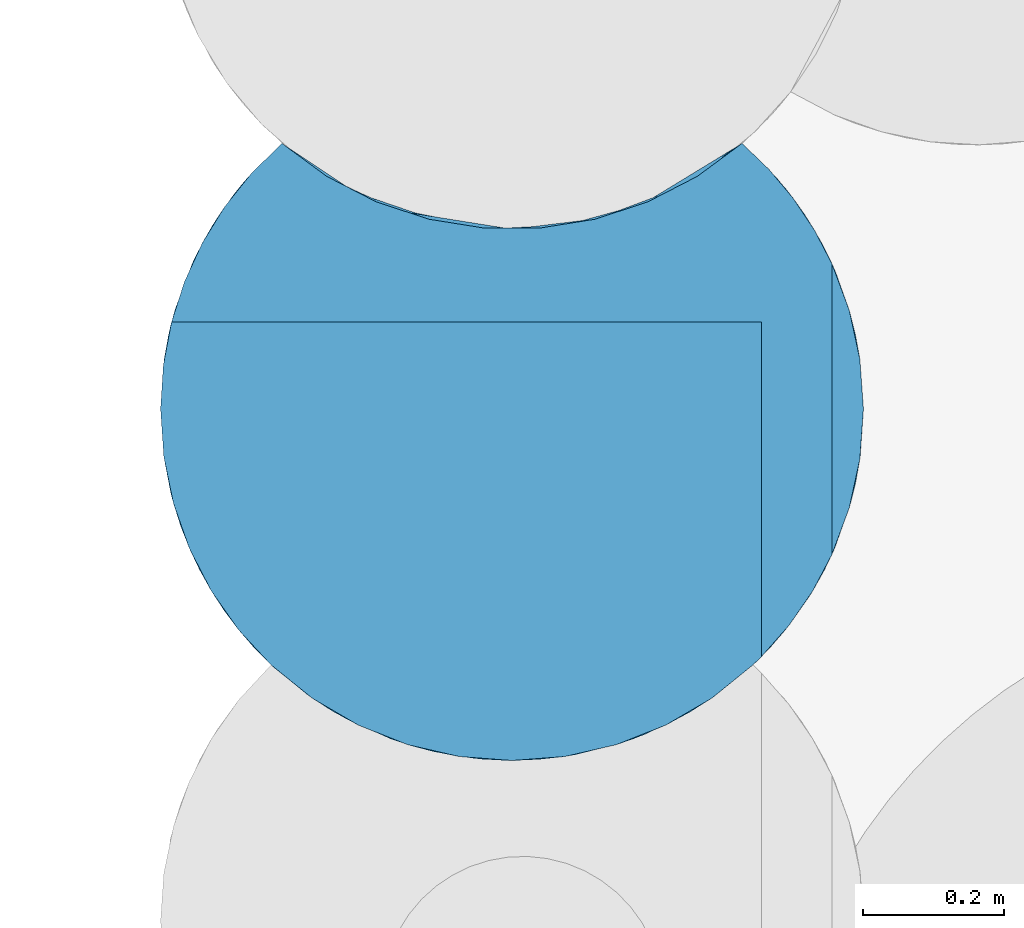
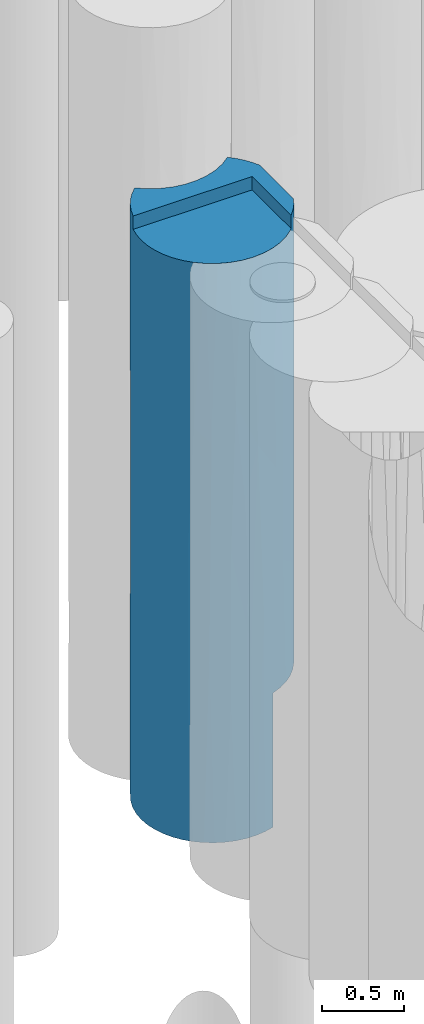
# One storey, part 25 of 104: 1 pile.
"""IFC2X3 building model written with IfcOpenShell, lengths in millimetres."""

from ifc_helpers import new_model, entity, si_unit, converted_unit, derived_unit, direction, frame, origin, place, context, subcontext, project, spatial, faceted_brep, source, transform, mapped, material, element, save


model = new_model("IFC2X3")

# Units and contexts
model_context = context("Model", 3, precision=0.01, world=origin(), true_north=direction((6.12303176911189e-17, 1.0)))
body_context = subcontext(model_context, "Body", "Model", "MODEL_VIEW")
ifc_project = project(units=[si_unit("LENGTHUNIT", "METRE", prefix="MILLI"), si_unit("AREAUNIT", "SQUARE_METRE", prefix="MILLI"), si_unit("VOLUMEUNIT", "CUBIC_METRE"), converted_unit("PLANEANGLEUNIT", "DEGREE", entity("IfcRatioMeasure", 0.0174532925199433), si_unit("PLANEANGLEUNIT", "RADIAN"), dimensions=[0, 0, 0, 0, 0, 0, 0]), si_unit("MASSUNIT", "GRAM", prefix="KILO"), derived_unit("MASSDENSITYUNIT", [(si_unit("MASSUNIT", "GRAM", prefix="KILO"), 1), (si_unit("LENGTHUNIT", "METRE"), -3)]), derived_unit("MOMENTOFINERTIAUNIT", [(si_unit("LENGTHUNIT", "METRE"), 4)]), si_unit("TIMEUNIT", "SECOND"), si_unit("FREQUENCYUNIT", "HERTZ"), si_unit("THERMODYNAMICTEMPERATUREUNIT", "DEGREE_CELSIUS"), derived_unit("THERMALTRANSMITTANCEUNIT", [(si_unit("MASSUNIT", "GRAM", prefix="KILO"), 1), (si_unit("THERMODYNAMICTEMPERATUREUNIT", "KELVIN"), -1), (si_unit("TIMEUNIT", "SECOND"), -3)]), derived_unit("VOLUMETRICFLOWRATEUNIT", [(si_unit("LENGTHUNIT", "METRE"), 3), (si_unit("TIMEUNIT", "SECOND"), -1)]), si_unit("ELECTRICCURRENTUNIT", "AMPERE"), si_unit("ELECTRICVOLTAGEUNIT", "VOLT"), si_unit("POWERUNIT", "WATT"), si_unit("FORCEUNIT", "NEWTON", prefix="KILO"), si_unit("ILLUMINANCEUNIT", "LUX"), si_unit("LUMINOUSFLUXUNIT", "LUMEN"), si_unit("LUMINOUSINTENSITYUNIT", "CANDELA"), derived_unit("USERDEFINED", [(si_unit("MASSUNIT", "GRAM", prefix="KILO"), -1), (si_unit("LENGTHUNIT", "METRE"), -2), (si_unit("TIMEUNIT", "SECOND"), 3), (si_unit("LUMINOUSFLUXUNIT", "LUMEN"), 1)]), derived_unit("LINEARVELOCITYUNIT", [(si_unit("LENGTHUNIT", "METRE"), 1), (si_unit("TIMEUNIT", "SECOND"), -1)]), si_unit("PRESSUREUNIT", "PASCAL"), derived_unit("USERDEFINED", [(si_unit("LENGTHUNIT", "METRE"), -2), (si_unit("MASSUNIT", "GRAM", prefix="KILO"), 1), (si_unit("TIMEUNIT", "SECOND"), -2)]), derived_unit("LINEARFORCEUNIT", [(si_unit("MASSUNIT", "GRAM", prefix="KILO"), 1), (si_unit("LENGTHUNIT", "METRE"), 1), (si_unit("TIMEUNIT", "SECOND"), -2), (si_unit("LENGTHUNIT", "METRE"), -1)]), derived_unit("PLANARFORCEUNIT", [(si_unit("MASSUNIT", "GRAM", prefix="KILO"), 1), (si_unit("LENGTHUNIT", "METRE"), 1), (si_unit("TIMEUNIT", "SECOND"), -2), (si_unit("LENGTHUNIT", "METRE"), -2)])], contexts=[model_context])

# Site, building, storey
site_placement = place(None, origin())
site = spatial("IfcSite", under=ifc_project, at=site_placement, Name="Theater aan de Parade", CompositionType="ELEMENT")
building_placement = place(site_placement, origin())
building = spatial("IfcBuilding", under=site, at=building_placement, Name="Theater aan de Parade", CompositionType="ELEMENT")
storey_placement = place(building_placement, frame((0.0, 0.0, -5520.0)))
storey = spatial("IfcBuildingStorey", under=building, at=storey_placement, Name="-2 kelder", CompositionType="ELEMENT", Elevation=-5520.0)

# Pile
ifc_material = material(Name="00_PBT_MAT_grout")
shared_shape = source(origin(), body_context, "Body", "Brep", [
    faceted_brep([(233.211823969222, 835.729980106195, 0.0), (297.904451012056, 800.96626597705, 0.0), (366.991627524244, 776.054143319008, 0.0), (438.982824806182, 761.531081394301, 0.0), (512.32486105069, 757.710409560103, 0.0), (585.43541063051, 764.674557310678, 0.0), (656.737142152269, 782.273275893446, 0.0), (656.737142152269, 26.2732758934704, 0.0), (591.893916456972, 9.81670940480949, 0.0), (525.446263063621, 2.1644659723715, 0.0), (458.576192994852, 3.44935101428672, 0.0), (392.48089006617, 13.6464515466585, 0.0), (328.341208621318, 32.5717872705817, 0.0), (267.302846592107, 59.886024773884, 0.0), (210.456079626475, 95.1005360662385, 0.0), (158.824861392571, 137.584495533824, 0.0), (112.665117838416, 187.376662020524, 0.0), (73.6828393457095, 242.962424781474, 0.0), (42.5887722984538, 303.320127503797, 0.0), (19.9574025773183, 367.338196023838, 0.0), (6.20806806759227, 433.834531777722, 0.0), (1.5952722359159, 501.595272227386, 0.0), (6.6911071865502, 572.798273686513, 0.0), (21.8718900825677, 642.54021401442, 0.0), (46.8276889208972, 709.408758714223, 0.0), (81.0484958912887, 772.040107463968, 0.0), (123.836402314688, 829.159367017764, 0.0), (174.309464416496, 879.595272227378, 0.0), (828.881080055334, 879.595272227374, 3639.23102183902), (828.881080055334, 879.595272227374, 4420.0), (867.586208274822, 842.25732578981, 4420.0), (981.319509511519, 642.537303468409, 1000.0), (990.155404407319, 607.939041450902, 2089.075545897), (996.49942263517, 572.798375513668, 1000.0), (1001.59527223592, 501.595272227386, 1829.23112947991), (956.737142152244, 708.587731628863, 4220.0), (962.081584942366, 696.408916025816, 3354.71428872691), (917.553341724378, 779.045960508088, 3486.92620176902), (948.427639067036, 725.962907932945, 1804.47364810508), (1001.59527223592, 501.595272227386, 1000.0), (902.034382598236, 801.008897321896, 4420.0), (931.869003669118, 756.280403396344, 4420.0), (1001.59527223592, 501.595272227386, 2658.46225895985), (990.252070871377, 607.493965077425, 3179.59751285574), (890.652203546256, 815.656897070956, 2718.66926219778), (956.737142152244, 708.587731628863, 4420.0), (996.543202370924, 572.493413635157, 4220.0), (981.489086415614, 641.958825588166, 4220.0), (956.365445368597, 709.403091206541, 1000.0), (901.775512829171, 801.354800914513, 1905.70220562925), (922.147403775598, 772.031779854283, 1000.0), (940.375252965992, 741.328725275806, 2610.8496606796), (879.362938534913, 829.149222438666, 1000.0), (1001.59527223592, 501.595272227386, 4220.0), (1001.59527223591, 501.595272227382, 3390.76885296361), (828.881080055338, 879.595272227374, 1000.0), (828.881080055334, 879.595272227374, 1780.7685223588), (828.881080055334, 879.595272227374, 2561.5377063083), (828.881080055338, 879.595272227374, 2858.46204367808), (828.881080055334, 879.595272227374, 3490.76885315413), (1001.59527223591, 501.595272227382, 2561.5377059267), (57.1101078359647, 272.612874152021, 1316.49280707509), (946.091792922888, 272.634919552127, 2497.84558901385), (990.787651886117, 398.198871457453, 2046.72670191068), (990.252071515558, 395.696582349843, 3133.13650739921), (756.716999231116, 71.580267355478, 1930.84616082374), (868.311668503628, 161.714286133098, 1823.04093486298), (847.500261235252, 140.555470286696, 2660.0), (134.89230682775, 161.699795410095, 1057.44780840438), (491.989719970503, 1.68754737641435, 1404.68734990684), (360.094293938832, 22.0356063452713, 1052.824173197), (539.334595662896, 3.02156306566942, 2901.77612704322), (691.143383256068, 38.9166433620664, 2656.11014799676), (670.010199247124, 30.8125066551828, 3485.90902426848), (576.855722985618, 7.29185877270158, 4320.0), (650.397164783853, 24.2505364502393, 4320.0), (996.982304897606, 433.83327793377, 1000.0), (983.235932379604, 367.348207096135, 1000.0), (92.2110047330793, 214.533394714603, 3172.2535251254), (30.1799105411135, 334.95927144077, 3445.3851444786), (30.1799105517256, 334.959271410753, 2516.73624277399), (19.9546063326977, 367.348227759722, 4320.0), (6.20831854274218, 433.832700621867, 4320.0), (238.290103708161, 76.5418776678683, 1404.63078403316), (847.500261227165, 140.555470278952, 3490.46984000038), (785.707955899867, 90.1587850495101, 4320.0), (753.846971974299, 69.8904193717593, 3399.95181773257), (112.643720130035, 187.40314929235, 4320.0), (73.6672637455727, 242.988196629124, 4320.0), (787.532221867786, 91.4245018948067, 1000.0), (844.383836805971, 137.595272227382, 1000.0), (890.546344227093, 187.402554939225, 1000.0), (929.522843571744, 242.987473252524, 1000.0), (1.5952722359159, 501.595272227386, 1561.53161059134), (1.5952722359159, 501.595272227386, 2940.77462173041), (674.417605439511, 32.4125347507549, 1827.33519803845), (585.825722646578, 8.74110391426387, 1571.19592302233), (656.73714215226, 26.2732758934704, 1000.0), (42.5805162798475, 303.339241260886, 4320.0), (1.59527223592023, 501.595272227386, 4320.0), (1.59527223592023, 501.595272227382, 3539.23206198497), (134.892306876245, 161.699795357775, 2159.99586512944), (15.8912046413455, 382.887400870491, 1514.92172740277), (1.59527223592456, 501.595272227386, 2758.46412396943), (389.247683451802, 14.380720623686, 3244.8879435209), (249.345077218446, 69.889540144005, 2978.06322869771), (360.094293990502, 22.0356063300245, 2149.62656965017), (720.547216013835, 52.0843754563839, 4320.0), (163.035278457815, 133.658958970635, 3084.10388307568), (282.645376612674, 52.0833778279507, 4320.0), (217.483581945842, 90.1580990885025, 4320.0), (426.339538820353, 7.29114055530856, 4320.0), (352.796689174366, 24.2495048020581, 4320.0), (501.598192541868, 1.5952722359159, 4320.0), (449.071524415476, 4.36166926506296, 2521.18102248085), (956.73714215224, 294.602812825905, 4220.0), (929.203275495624, 242.459409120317, 4420.0), (925.786159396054, 236.902825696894, 3422.73924696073), (960.609833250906, 303.338789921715, 1000.0), (724.530883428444, 54.0467125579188, 1000.0), (996.54320237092, 430.697130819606, 4220.0), (981.489086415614, 361.231718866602, 4220.0), (844.383836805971, 137.595272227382, 4320.0), (850.591123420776, 143.54234896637, 4320.0), (856.737142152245, 149.63753011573, 4320.0), (72.9794499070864, 244.129785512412, 2273.29113064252), (158.806707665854, 137.595272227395, 4320.0), (895.73451571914, 193.935952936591, 4420.0), (856.737142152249, 149.637530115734, 4420.0), (956.737142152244, 294.602812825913, 4420.0), (765.081599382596, 832.654152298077, 4420.0), (694.669831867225, 796.377086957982, 4420.0), (619.412786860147, 771.674462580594, 4420.0), (541.199067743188, 759.166200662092, 4420.0), (461.991476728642, 759.166200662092, 4420.0), (383.777757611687, 771.674462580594, 4420.0), (308.520712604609, 796.377086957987, 4420.0), (238.108945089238, 832.654152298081, 4420.0), (174.309464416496, 879.595272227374, 4420.0), (130.918293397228, 837.152387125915, 4420.0), (92.9965918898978, 789.774241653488, 4420.0), (61.0935152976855, 738.150132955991, 4420.0), (35.6798726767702, 683.041794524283, 4420.0), (17.1213502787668, 625.227868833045, 4420.0), (856.737142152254, 625.227868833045, 4420.0), (856.737142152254, 625.227868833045, 4320.0), (17.1213502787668, 625.227868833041, 4320.0), (5.49197604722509, 563.897114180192, 4320.0), (656.737142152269, 782.273275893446, 1000.0), (718.267106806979, 806.98089595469, 1000.0), (775.986764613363, 839.612845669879, 1000.0), (331.990025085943, 787.240023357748, 1178.08654059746), (475.583599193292, 758.272337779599, 1178.08654043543), (252.973291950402, 823.789888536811, 3477.55120780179), (345.65930665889, 782.533197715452, 3273.91670099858), (278.768038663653, 809.992743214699, 2263.94226160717), (730.595200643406, 813.119139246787, 3443.60450774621), (622.633633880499, 772.466717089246, 3354.30509394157), (501.595272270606, 757.595272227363, 3151.80460205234), (579.254525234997, 763.663049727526, 2394.24224098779), (244.670629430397, 828.655034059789, 1171.15328069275), (174.309464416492, 879.595272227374, 780.768853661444), (174.309464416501, 879.595272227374, 1296.93041957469), (174.309464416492, 879.595272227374, 1561.53770732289), (490.318036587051, 757.722464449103, 2336.19397237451), (174.309464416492, 879.595272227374, 3123.07541464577), (402.720216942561, 767.469040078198, 2200.69445163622), (174.309464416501, 879.595272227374, 2858.46520978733), (687.91213767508, 793.60602057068, 2494.94883500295), (564.642942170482, 761.58620848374, 858.578057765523), (113.572129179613, 816.933250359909, 888.689384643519), (12.5603015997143, 605.733629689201, 2066.71993352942), (76.2611090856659, 764.44665544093, 3372.38593218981), (15.3398784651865, 618.024186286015, 3148.84671878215), (62.8191577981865, 741.335801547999, 1219.35000159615), (47.5498475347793, 710.981881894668, 2442.86990587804), (13.0354514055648, 607.940471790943, 1007.40469843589), (104.531481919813, 805.470816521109, 2465.24290771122)], [[[0, 1, 2, 3, 4, 5, 6, 7, 8, 9, 10, 11, 12, 13, 14, 15, 16, 17, 18, 19, 20, 21, 22, 23, 24, 25, 26, 27]], [[28, 29, 30]], [[31, 32, 33]], [[33, 32, 34]], [[35, 36, 37]], [[32, 31, 38]], [[34, 39, 33]], [[37, 40, 41]], [[42, 32, 43]], [[37, 44, 28]], [[45, 35, 41]], [[46, 43, 47]], [[38, 31, 48]], [[49, 38, 50]], [[37, 36, 51]], [[50, 52, 49]], [[44, 37, 51]], [[49, 44, 51]], [[47, 36, 35]], [[30, 40, 37]], [[43, 53, 54, 42]], [[51, 43, 32]], [[36, 47, 43]], [[52, 55, 56]], [[35, 37, 41]], [[37, 28, 30]], [[51, 38, 49]], [[44, 56, 57, 58, 59, 28]], [[52, 56, 49]], [[43, 51, 36]], [[43, 46, 53]], [[56, 44, 49]], [[32, 38, 51]], [[50, 38, 48]], [[32, 42, 60, 34]], [[18, 17, 61]], [[62, 63, 64]], [[65, 66, 67]], [[68, 61, 17]], [[10, 69, 70]], [[71, 72, 73]], [[74, 73, 75]], [[19, 18, 61]], [[68, 16, 15]], [[76, 63, 77]], [[70, 12, 11]], [[78, 79, 80]], [[79, 81, 82]], [[69, 10, 9]], [[13, 83, 14]], [[84, 85, 86]], [[13, 12, 70]], [[86, 65, 67]], [[86, 72, 65]], [[83, 13, 70]], [[87, 88, 78]], [[66, 89, 90]], [[66, 91, 92]], [[86, 73, 72]], [[21, 20, 93]], [[82, 94, 79]], [[95, 96, 97]], [[79, 88, 98]], [[80, 79, 94]], [[82, 99, 100, 94]], [[71, 69, 96]], [[83, 101, 68]], [[79, 98, 81]], [[102, 94, 103, 93]], [[78, 88, 79]], [[104, 105, 106]], [[63, 76, 39]], [[107, 73, 86]], [[108, 87, 78]], [[101, 108, 78]], [[104, 109, 105]], [[109, 110, 105]], [[104, 111, 112]], [[14, 83, 68]], [[71, 113, 104]], [[19, 61, 102]], [[114, 71, 104]], [[115, 116, 117]], [[106, 70, 69]], [[71, 95, 72]], [[97, 8, 7]], [[104, 112, 109]], [[96, 9, 8]], [[118, 77, 63]], [[95, 119, 65]], [[108, 101, 105]], [[66, 62, 67]], [[95, 65, 72]], [[65, 89, 66]], [[71, 74, 113]], [[60, 64, 63]], [[83, 105, 101]], [[70, 11, 10]], [[54, 120, 64]], [[92, 118, 62]], [[105, 83, 106]], [[67, 62, 117]], [[119, 89, 65]], [[68, 17, 16]], [[92, 62, 66]], [[121, 64, 120]], [[113, 111, 104]], [[67, 117, 84]], [[62, 64, 117]], [[67, 84, 86]], [[85, 107, 86]], [[63, 39, 34, 60]], [[61, 80, 102]], [[73, 107, 75]], [[122, 84, 123]], [[91, 66, 90]], [[123, 84, 124]], [[74, 71, 73]], [[85, 84, 122]], [[54, 53, 120]], [[64, 115, 117]], [[125, 78, 80]], [[108, 110, 126]], [[68, 15, 14]], [[124, 127, 128]], [[115, 64, 121]], [[124, 84, 127]], [[129, 116, 115]], [[61, 68, 101]], [[62, 118, 63]], [[117, 127, 84]], [[78, 125, 101]], [[19, 102, 20]], [[127, 117, 116]], [[8, 97, 96]], [[104, 106, 114]], [[83, 70, 106]], [[119, 95, 97]], [[71, 96, 95]], [[96, 69, 9]], [[110, 108, 105]], [[87, 108, 126]], [[94, 102, 80]], [[102, 93, 20]], [[80, 61, 125]], [[61, 101, 125]], [[106, 69, 114]], [[69, 71, 114]], [[64, 60, 42, 54]], [[130, 131, 132, 133, 134, 135, 136, 137, 138, 139, 140, 141, 142, 143, 144, 128, 127, 116, 129, 45, 41, 40, 30, 29]], [[82, 81, 98, 88, 87, 126, 110, 109, 112, 111, 113, 74, 75, 107, 85, 122, 123, 124, 145, 146, 147, 99]], [[144, 145, 124, 128]], [[119, 97, 148, 149, 150, 55, 52, 50, 48, 31, 33, 39, 76, 77, 118, 92, 91, 90, 89]], [[97, 7, 6, 148]], [[143, 146, 145, 144]], [[3, 2, 151, 152]], [[153, 154, 155]], [[130, 156, 131]], [[132, 157, 133]], [[130, 29, 28, 59]], [[158, 157, 159]], [[154, 134, 158]], [[160, 161, 162, 163]], [[158, 159, 164]], [[3, 152, 4]], [[130, 59, 156]], [[138, 153, 165]], [[137, 153, 138]], [[151, 2, 1]], [[156, 157, 131]], [[154, 158, 166]], [[150, 57, 56, 55]], [[166, 152, 151]], [[160, 1, 0]], [[6, 5, 148]], [[155, 163, 167, 165]], [[150, 168, 57]], [[5, 4, 169]], [[154, 136, 135]], [[132, 131, 157]], [[137, 136, 153]], [[27, 161, 0]], [[157, 168, 159]], [[154, 135, 134]], [[134, 133, 158]], [[168, 148, 159]], [[149, 168, 150]], [[158, 133, 157]], [[154, 166, 155]], [[156, 168, 157]], [[168, 149, 148]], [[159, 152, 164]], [[151, 1, 160]], [[148, 5, 169]], [[156, 57, 168]], [[151, 155, 166]], [[169, 152, 159]], [[148, 169, 159]], [[152, 169, 4]], [[163, 155, 160]], [[161, 160, 0]], [[151, 160, 155]], [[165, 153, 155]], [[154, 153, 136]], [[156, 59, 58, 57]], [[164, 166, 158]], [[166, 164, 152]], [[170, 27, 26]], [[103, 171, 93]], [[139, 172, 140]], [[173, 146, 142]], [[174, 171, 175]], [[171, 173, 175]], [[173, 103, 94, 100]], [[170, 25, 174]], [[22, 176, 23]], [[170, 162, 161, 27]], [[140, 172, 141]], [[172, 173, 142]], [[176, 93, 171]], [[176, 22, 21]], [[172, 139, 167]], [[171, 103, 173]], [[175, 172, 177]], [[176, 24, 23]], [[174, 175, 177]], [[25, 24, 174]], [[21, 93, 176]], [[142, 146, 143]], [[139, 138, 165, 167]], [[173, 147, 146]], [[142, 141, 172]], [[100, 99, 147]], [[177, 172, 167]], [[172, 175, 173]], [[147, 173, 100]], [[174, 24, 176]], [[174, 176, 171]], [[177, 167, 163, 162]], [[177, 162, 170]], [[25, 170, 26]], [[177, 170, 174]], [[120, 53, 46, 47, 35, 115, 121]], [[35, 45, 129, 115]]]),
])
pile_placement = place(storey_placement, frame((34348.2628578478, 25884.7721311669, -3840.0)))
element("IfcPile", 1, at=pile_placement, inside=storey, material=ifc_material, Name="17_PBT_SFO_grondkering_rond:Ø1000 (grondkering)", ObjectType="17_PBT_SFO_grondkering_rond:Ø1000 (grondkering)", PredefinedType="NOTDEFINED", context=body_context, shape_type="MappedRepresentation", body=[
    mapped(shared_shape, transform((0.0, 0.0, 0.0), scale=1.0)),
])

save(model, "model.ifc")
